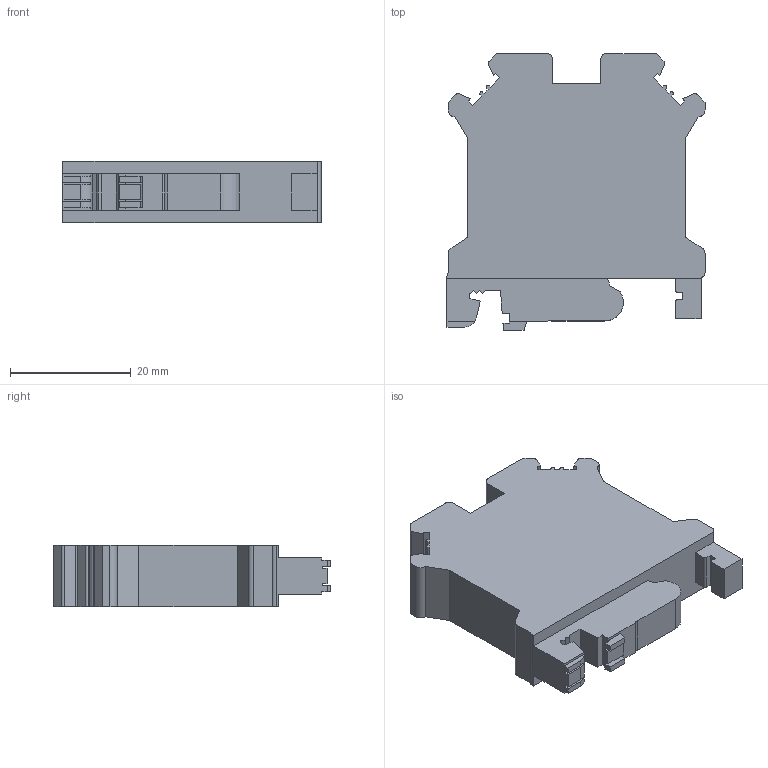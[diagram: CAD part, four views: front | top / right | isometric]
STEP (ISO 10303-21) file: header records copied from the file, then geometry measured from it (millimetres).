
FILE_DESCRIPTION(/* description */ (''),/* implementation_level */ '2;1');
FILE_NAME(/* name */ 'JUT1-10PE.stp',/* time_stamp */ '2023-02-16T16:07:07+08:00',/* author */ (''),/* organization */ (''),/* preprocessor_version */ 'ST-DEVELOPER v16.7',/* originating_system */ 'SIEMENS PLM Software NX 12.0',/* authorisation */ '');
FILE_SCHEMA (('AP203_CONFIGURATION_CONTROLLED_3D_DESIGN_OF_MECHANICAL_PARTS_AND_ASSEMBLIES_MIM_LF { 1 0 10303 403 2 1 2}'));
Length unit declared in the file: millimetre
Products named in the file (1): Admi348C08DB5g09
Bounding box: 42.7 x 45.8 x 10.2 mm (x, y, z)
Volume: 14199.7 mm3; surface area: 5494.6 mm2
Topology: 1 solids, 1 shells, 135 faces, 393 edges, 262 vertices
Faces by surface type: plane 111, cylinder 24
Full cylindrical faces by diameter (mm): 5.8 x2
Entity records: 4515 total; most frequent: CARTESIAN_POINT 795, ORIENTED_EDGE 782, DIRECTION 715, EDGE_CURVE 391, LINE 335, VECTOR 335, VERTEX_POINT 262, AXIS2_PLACEMENT_3D 190
